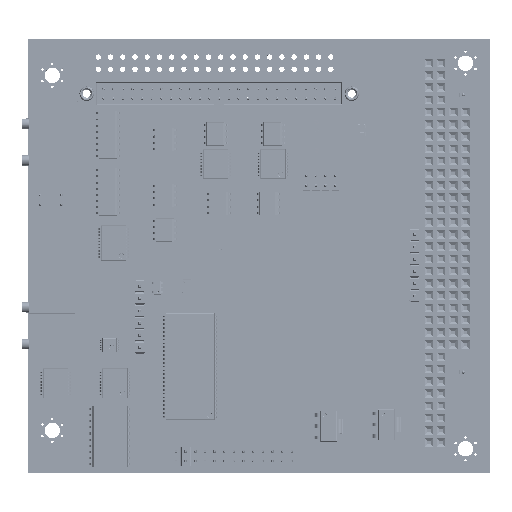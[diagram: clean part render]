
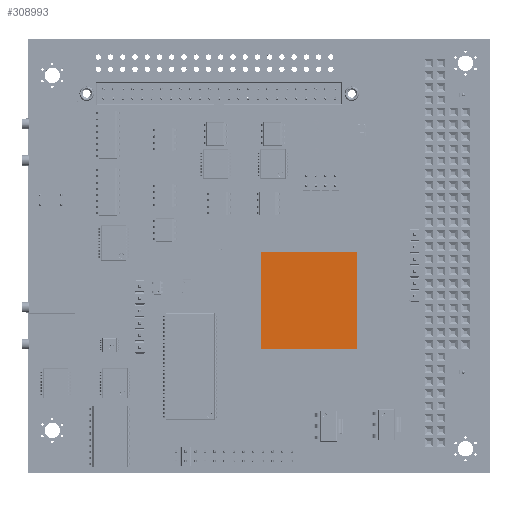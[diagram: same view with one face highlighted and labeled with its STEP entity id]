
A CAD part, top view. The second image highlights one B-rep face of the part: STEP entity #308993.
In plain terms, the highlighted planar face has unit normal (0, 0, 1).
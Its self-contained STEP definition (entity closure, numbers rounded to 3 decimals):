
#308864 = VERTEX_POINT('',#308865);
#308865 = CARTESIAN_POINT('',(-10.,10.,1.6));
#308871 = EDGE_CURVE('',#308864,#308872,#308874,.T.);
#308872 = VERTEX_POINT('',#308873);
#308873 = CARTESIAN_POINT('',(10.,10.,1.6));
#308874 = LINE('',#308875,#308876);
#308875 = CARTESIAN_POINT('',(-10.,10.,1.6));
#308876 = VECTOR('',#308877,1.);
#308877 = DIRECTION('',(1.,0.,0.));
#308902 = EDGE_CURVE('',#308872,#308903,#308905,.T.);
#308903 = VERTEX_POINT('',#308904);
#308904 = CARTESIAN_POINT('',(10.,-10.,1.6));
#308905 = LINE('',#308906,#308907);
#308906 = CARTESIAN_POINT('',(10.,10.,1.6));
#308907 = VECTOR('',#308908,1.);
#308908 = DIRECTION('',(0.,-1.,0.));
#308933 = EDGE_CURVE('',#308903,#308934,#308936,.T.);
#308934 = VERTEX_POINT('',#308935);
#308935 = CARTESIAN_POINT('',(-10.,-10.,1.6));
#308936 = LINE('',#308937,#308938);
#308937 = CARTESIAN_POINT('',(10.,-10.,1.6));
#308938 = VECTOR('',#308939,1.);
#308939 = DIRECTION('',(-1.,0.,0.));
#308964 = EDGE_CURVE('',#308934,#308864,#308965,.T.);
#308965 = LINE('',#308966,#308967);
#308966 = CARTESIAN_POINT('',(-10.,-10.,1.6));
#308967 = VECTOR('',#308968,1.);
#308968 = DIRECTION('',(0.,1.,0.));
#308993 = ADVANCED_FACE('',(#308994),#309000,.T.);
#308994 = FACE_BOUND('',#308995,.F.);
#308995 = EDGE_LOOP('',(#308996,#308997,#308998,#308999));
#308996 = ORIENTED_EDGE('',*,*,#308871,.T.);
#308997 = ORIENTED_EDGE('',*,*,#308902,.T.);
#308998 = ORIENTED_EDGE('',*,*,#308933,.T.);
#308999 = ORIENTED_EDGE('',*,*,#308964,.T.);
#309000 = PLANE('',#309001);
#309001 = AXIS2_PLACEMENT_3D('',#309002,#309003,#309004);
#309002 = CARTESIAN_POINT('',(-10.,10.,1.6));
#309003 = DIRECTION('',(0.,0.,1.));
#309004 = DIRECTION('',(1.,0.,0.));
